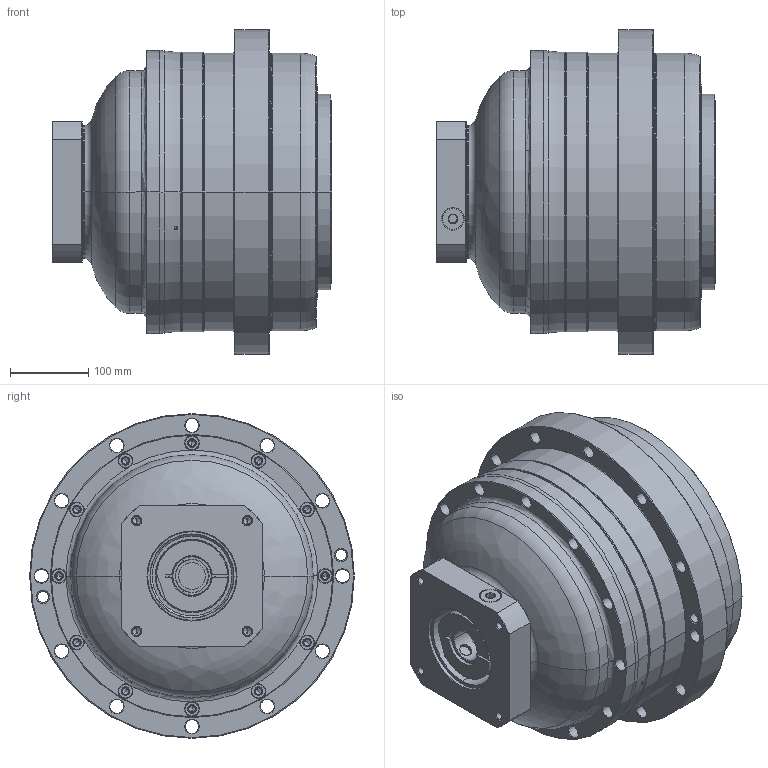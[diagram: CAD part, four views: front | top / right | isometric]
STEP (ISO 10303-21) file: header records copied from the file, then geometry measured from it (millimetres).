
FILE_DESCRIPTION((''),'2;1');
FILE_NAME('AH355_2ST_42-P0409A50101_ASM','2016-08-02T',('d01943'),(''),'PRO/ENGINEER BY PARAMETRIC TECHNOLOGY CORPORATION, 2008410','PRO/ENGINEER BY PARAMETRIC TECHNOLOGY CORPORATION, 2008410','');
FILE_SCHEMA(('CONFIG_CONTROL_DESIGN'));
Length unit declared in the file: millimetre
Products named in the file (8): P0276100003; P0357100003; P1339100101; P0409A50101; P0503A00012; P0962102001; 21711422019; AH355_2ST_42-P0409A50101_ASM
Assembly tree (7 placements, depth 2):
  AH355_2ST_42-P0409A50101_ASM
    P0276100003
    P0357100003
    P1339100101
    P0409A50101
    P0503A00012
    P0962102001
    21711422019
Bounding box: 357.5 x 415 x 415 mm (x, y, z)
Volume: 24403524.6 mm3; surface area: 1251899 mm2
Topology: 8 solids, 8 shells, 830 faces, 1887 edges, 1096 vertices
Faces by surface type: cylinder 308, cone 274, torus 112, plane 108, bspline 28
Entity records: 28203 total; most frequent: CARTESIAN_POINT 9007, DIRECTION 4393, ORIENTED_EDGE 3678, AXIS2_PLACEMENT_3D 1866, EDGE_CURVE 1839, VERTEX_POINT 1096, CIRCLE 1049, EDGE_LOOP 1001
